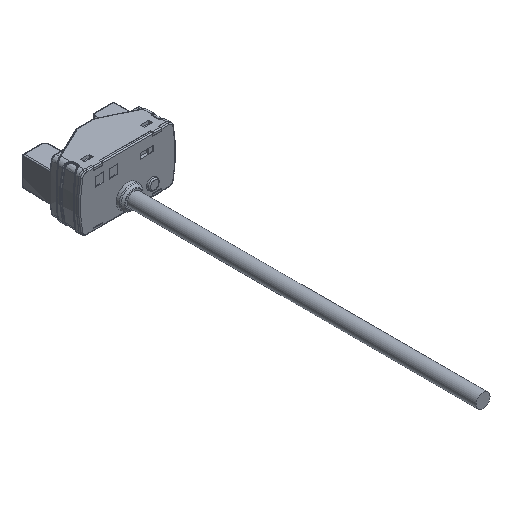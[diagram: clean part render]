
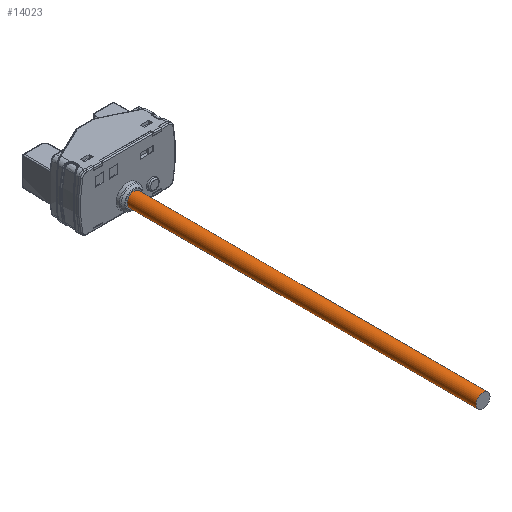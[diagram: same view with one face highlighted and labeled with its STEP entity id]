
A CAD part, isometric view. The second image highlights one B-rep face of the part: STEP entity #14023.
In plain terms, the highlighted cylindrical face has radius 2 mm (diameter 4 mm), a full revolution.
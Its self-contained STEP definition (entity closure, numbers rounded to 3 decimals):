
#85=FACE_BOUND('',#3050,.T.);
#904=CYLINDRICAL_SURFACE('',#15030,2.);
#2285=FACE_OUTER_BOUND('',#3049,.T.);
#3049=EDGE_LOOP('',(#12481));
#3050=EDGE_LOOP('',(#12482));
#6168=CIRCLE('',#15031,2.);
#6169=CIRCLE('',#15032,2.);
#7249=VERTEX_POINT('',#32065);
#7250=VERTEX_POINT('',#32067);
#9081=EDGE_CURVE('',#7249,#7249,#6168,.T.);
#9082=EDGE_CURVE('',#7250,#7250,#6169,.T.);
#12481=ORIENTED_EDGE('',*,*,#9081,.F.);
#12482=ORIENTED_EDGE('',*,*,#9082,.T.);
#14023=ADVANCED_FACE('',(#2285,#85),#904,.T.);
#15030=AXIS2_PLACEMENT_3D('',#32064,#17845,#17846);
#15031=AXIS2_PLACEMENT_3D('',#32066,#17847,#17848);
#15032=AXIS2_PLACEMENT_3D('',#32068,#17849,#17850);
#17845=DIRECTION('center_axis',(0.,-1.,0.));
#17846=DIRECTION('ref_axis',(-1.,0.,0.));
#17847=DIRECTION('center_axis',(0.,-1.,0.));
#17848=DIRECTION('ref_axis',(-1.,0.,0.));
#17849=DIRECTION('center_axis',(0.,-1.,0.));
#17850=DIRECTION('ref_axis',(0.,0.,-1.));
#32064=CARTESIAN_POINT('Origin',(0.,-2.6,-4.));
#32065=CARTESIAN_POINT('',(2.,-102.6,-4.));
#32066=CARTESIAN_POINT('Origin',(0.,-102.6,-4.));
#32067=CARTESIAN_POINT('',(2.,-2.6,-4.));
#32068=CARTESIAN_POINT('Origin',(0.,-2.6,-4.));
